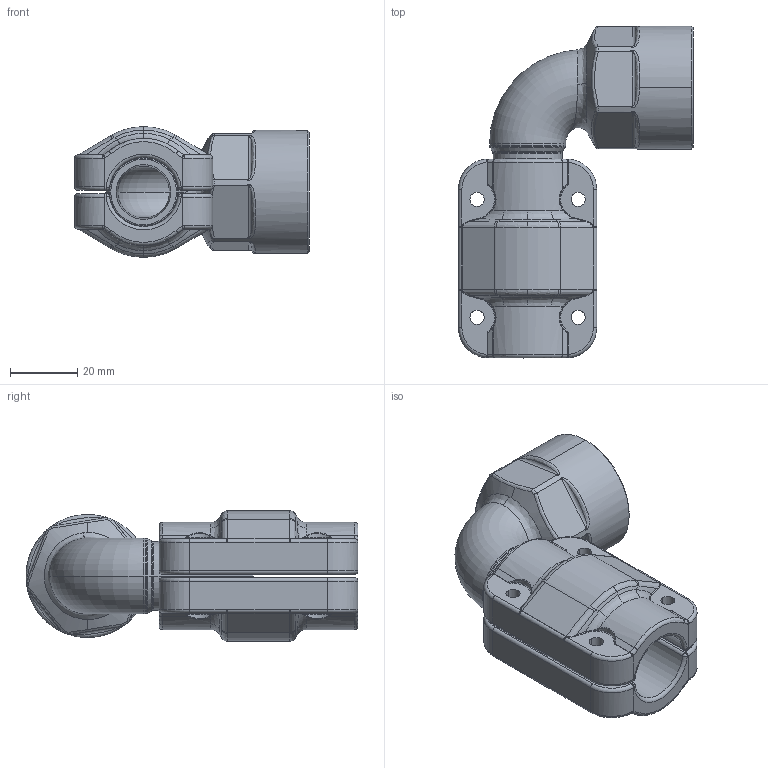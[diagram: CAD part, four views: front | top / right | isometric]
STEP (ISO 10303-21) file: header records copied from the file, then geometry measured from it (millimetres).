
FILE_DESCRIPTION((''),'2;1');
FILE_NAME('AU15101399_ASM_3_ASM','2017-05-15T',('Administrator'),(''),'PRO/ENGINEER BY PARAMETRIC TECHNOLOGY CORPORATION, 2009360','PRO/ENGINEER BY PARAMETRIC TECHNOLOGY CORPORATION, 2009360','');
FILE_SCHEMA(('AUTOMOTIVE_DESIGN_CC2 { 1 2 10303 214 -1 1 5 2 }'));
Length unit declared in the file: millimetre
Products named in the file (5): AU15101300_5; 201510020000_38_1; 201510020001_10_1; 2015100200_ASM_1_ASM; AU15101399_ASM_3_ASM
Assembly tree (4 placements, depth 3):
  AU15101399_ASM_3_ASM
    AU15101300_5
    2015100200_ASM_1_ASM
      201510020000_38_1
      201510020001_10_1
Bounding box: 69.72 x 98.49 x 38.8 mm (x, y, z)
Volume: 76281.8 mm3; surface area: 31310.7 mm2
Topology: 3 solids, 9 shells, 452 faces, 1101 edges, 662 vertices
Faces by surface type: bspline 158, cylinder 124, torus 90, plane 48, cone 24, sphere 8
Entity records: 24456 total; most frequent: CARTESIAN_POINT 11831, ORIENTED_EDGE 2188, DIRECTION 1604, EDGE_CURVE 1094, AXIS2_PLACEMENT_3D 694, VERTEX_POINT 662, PRESENTATION_STYLE_ASSIGNMENT 589, STYLED_ITEM 589
